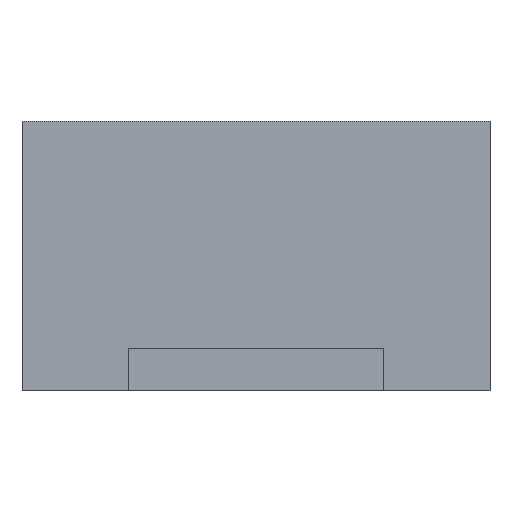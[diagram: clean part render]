
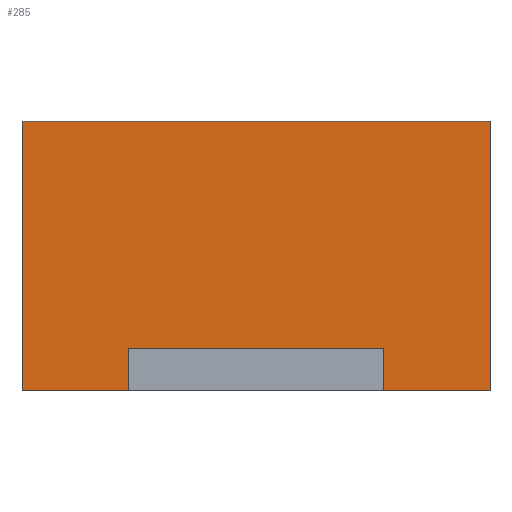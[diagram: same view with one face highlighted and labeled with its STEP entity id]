
A CAD part, front view. The second image highlights one B-rep face of the part: STEP entity #285.
In plain terms, the highlighted planar face has unit normal (0, -1, 0).
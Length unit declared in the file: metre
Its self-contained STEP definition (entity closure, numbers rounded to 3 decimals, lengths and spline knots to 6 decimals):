
#76=ORIENTED_EDGE('',*,*,#94,.F.);
#77=ORIENTED_EDGE('',*,*,#87,.T.);
#78=ORIENTED_EDGE('',*,*,#89,.T.);
#79=ORIENTED_EDGE('',*,*,#107,.T.);
#80=ORIENTED_EDGE('',*,*,#119,.F.);
#81=ORIENTED_EDGE('',*,*,#115,.F.);
#82=ORIENTED_EDGE('',*,*,#116,.T.);
#83=ORIENTED_EDGE('',*,*,#108,.T.);
#87=EDGE_CURVE('',#121,#123,#147,.T.);
#89=EDGE_CURVE('',#123,#124,#149,.T.);
#94=EDGE_CURVE('',#121,#127,#154,.T.);
#107=EDGE_CURVE('',#124,#136,#167,.T.);
#108=EDGE_CURVE('',#138,#127,#168,.T.);
#115=EDGE_CURVE('',#143,#140,#175,.T.);
#116=EDGE_CURVE('',#143,#138,#176,.T.);
#119=EDGE_CURVE('',#140,#136,#179,.T.);
#121=VERTEX_POINT('',#469);
#123=VERTEX_POINT('',#473);
#124=VERTEX_POINT('',#477);
#127=VERTEX_POINT('',#487);
#136=VERTEX_POINT('',#514);
#138=VERTEX_POINT('',#518);
#140=VERTEX_POINT('',#525);
#143=VERTEX_POINT('',#530);
#147=LINE('',#474,#183);
#149=LINE('',#479,#185);
#154=LINE('',#488,#190);
#167=LINE('',#516,#203);
#168=LINE('',#517,#204);
#175=LINE('',#531,#211);
#176=LINE('',#533,#212);
#179=LINE('',#537,#215);
#183=VECTOR('',#406,1.);
#185=VECTOR('',#410,1.);
#190=VECTOR('',#419,1.);
#203=VECTOR('',#442,1.);
#204=VECTOR('',#443,1.);
#211=VECTOR('',#452,1.);
#212=VECTOR('',#455,1.);
#215=VECTOR('',#460,1.);
#229=EDGE_LOOP('',(#76,#77,#78,#79,#80,#81,#82,#83));
#243=FACE_BOUND('',#229,.T.);
#257=PLANE('',#398);
#285=ADVANCED_FACE('',(#243),#257,.F.);
#398=AXIS2_PLACEMENT_3D('',#539,#463,#464);
#406=DIRECTION('',(1.,0.,0.));
#410=DIRECTION('',(0.,0.,-1.));
#419=DIRECTION('',(0.,0.,-1.));
#442=DIRECTION('',(1.,0.,0.));
#443=DIRECTION('',(1.,0.,0.));
#452=DIRECTION('',(1.,0.,0.));
#455=DIRECTION('',(0.,0.,-1.));
#460=DIRECTION('',(0.,0.,-1.));
#463=DIRECTION('',(0.,1.,0.));
#464=DIRECTION('',(-1.,0.,0.));
#469=CARTESIAN_POINT('',(0.00555,0.01765,0.00065));
#473=CARTESIAN_POINT('',(0.00645,0.01765,0.00065));
#474=CARTESIAN_POINT('',(0.00555,0.01765,0.00065));
#477=CARTESIAN_POINT('',(0.00645,0.01765,0.0005));
#479=CARTESIAN_POINT('',(0.00645,0.01765,0.00065));
#487=CARTESIAN_POINT('',(0.00555,0.01765,0.0005));
#488=CARTESIAN_POINT('',(0.00555,0.01765,0.00065));
#514=CARTESIAN_POINT('',(0.006825,0.01765,0.0005));
#516=CARTESIAN_POINT('',(0.005175,0.01765,0.0005));
#517=CARTESIAN_POINT('',(0.005175,0.01765,0.0005));
#518=CARTESIAN_POINT('',(0.005175,0.01765,0.0005));
#525=CARTESIAN_POINT('',(0.006825,0.01765,0.00145));
#530=CARTESIAN_POINT('',(0.005175,0.01765,0.00145));
#531=CARTESIAN_POINT('',(0.005175,0.01765,0.00145));
#533=CARTESIAN_POINT('',(0.005175,0.01765,0.00145));
#537=CARTESIAN_POINT('',(0.006825,0.01765,0.00145));
#539=CARTESIAN_POINT('',(0.005175,0.01765,0.00145));
